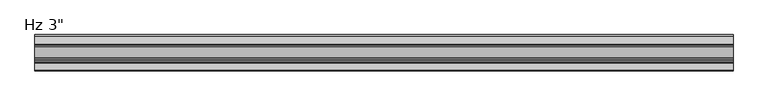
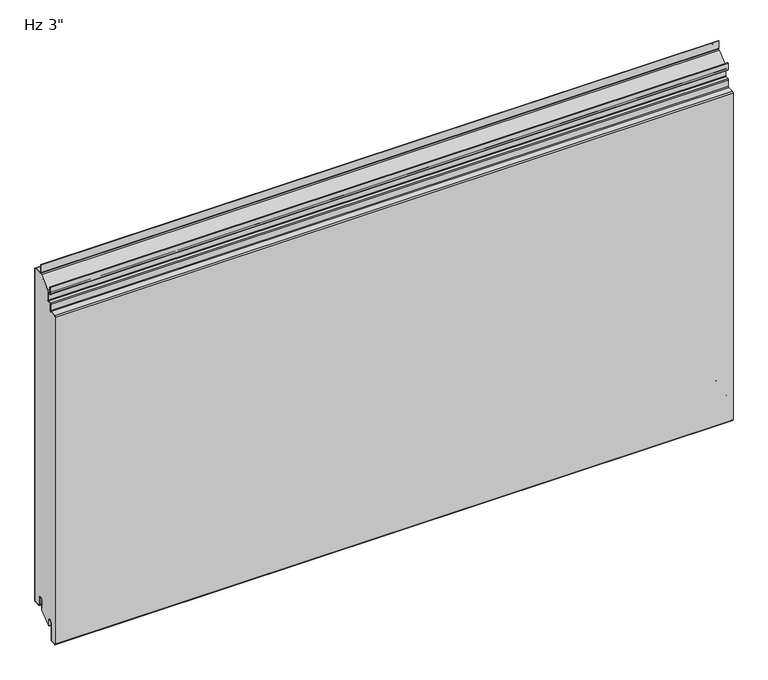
"""IFC4 building model written with IfcOpenShell, lengths in millimetres: plate geometry."""

from ifc_helpers import new_model, si_unit, point, frame, frame_2d, origin, place, context, project, spatial, polyline, circle_curve, ellipse_curve, trimmed, segment, composite_curve, outline, extrude, source, transform, mapped, element, save
from ifc_brep_helpers import plane_surface, cylinder_surface, revolved_surface, extruded_surface, advanced_brep


def plate_24239458(model_context):
    return source(origin(), model_context, "Body", "SolidModel", [
        extrude(outline(composite_curve([segment(trimmed(circle_curve(frame_2d((-21.43125, 19.25)), 4.96875), [point((-16.4625, 19.25))], [point((-26.4, 19.25))], True, "CARTESIAN"), True, "CONTINUOUS"), segment(polyline([(-26.4, 19.25), (-26.4, -2.9323422), (-49.2157227, -22.81875), (-50.8, -22.81875), (-50.8, -13.3080174), (-51.59375, -13.3080174), (-51.3875, -11.7205174)]), True, "CONTINUOUS"), segment(trimmed(circle_curve(frame_2d((-56.35625, -11.7205174)), 4.96875), [point((-51.3875, -11.7205174))], [point((-61.325, -11.7205174))], True, "CARTESIAN"), True, "CONTINUOUS"), segment(polyline([(-61.325, -11.7205174), (-61.325, -49.9038221)]), True, "CONTINUOUS"), segment(trimmed(circle_curve(frame_2d((-62.70625, -49.9038221)), 1.38125), [point((-61.325, -49.9038221))], [point((-62.633961, -51.2831791))], False, "CARTESIAN"), True, "CONTINUOUS"), segment(polyline([(-62.633961, -51.2831791), (-73.746461, -51.8655606)]), True, "CONTINUOUS"), segment(trimmed(circle_curve(frame_2d((-73.81875, -50.4862035)), 1.38125), [point((-73.746461, -51.8655606))], [point((-75.2, -50.4862035))], False, "CARTESIAN"), True, "CONTINUOUS"), segment(polyline([(-75.2, -50.4862035), (-75.2, 694.0447607)]), True, "CONTINUOUS"), segment(trimmed(circle_curve(frame_2d((-73.81875, 694.0447607)), 1.38125), [point((-75.2, 694.0447607))], [point((-73.891039, 695.4241177))], False, "CARTESIAN"), True, "CONTINUOUS"), segment(polyline([(-73.891039, 695.4241177), (-60.1895807, 696.1421807)]), True, "CONTINUOUS"), segment(trimmed(circle_curve(frame_2d((-60.325, 698.7261347)), 2.5875), [point((-60.1895807, 696.1421807))], [point((-57.7375, 698.7261347))], True, "CARTESIAN"), True, "CONTINUOUS"), segment(polyline([(-57.7375, 698.7261347), (-57.7375, 712.8824411)]), True, "CONTINUOUS"), segment(trimmed(circle_curve(frame_2d((-56.35625, 712.8824411)), 1.38125), [point((-57.7375, 712.8824411))], [point((-56.428539, 714.2617981))], False, "CARTESIAN"), True, "CONTINUOUS"), segment(polyline([(-56.428539, 714.2617981), (-50.6645807, 714.5638744)]), True, "CONTINUOUS"), segment(trimmed(circle_curve(frame_2d((-50.8, 717.1478283)), 2.5875), [point((-50.6645807, 714.5638744))], [point((-48.2125, 717.1478283))], True, "CARTESIAN"), True, "CONTINUOUS"), segment(polyline([(-48.2125, 717.1478283), (-48.2125, 739.5892934), (-24.9057308, 760.40625), (-2.38125, 760.40625)]), True, "CONTINUOUS"), segment(trimmed(circle_curve(frame_2d((-2.38125, 759.025)), 1.38125), [point((-2.38125, 760.40625))], [point((-1.0, 759.025))], False, "CARTESIAN"), True, "CONTINUOUS"), segment(polyline([(-1.0, 759.025), (-1.0, 3.375)]), True, "CONTINUOUS"), segment(trimmed(circle_curve(frame_2d((-2.38125, 3.375)), 1.38125), [point((-1.0, 3.375))], [point((-2.38125, 1.99375))], False, "CARTESIAN"), True, "CONTINUOUS"), segment(polyline([(-2.38125, 1.99375), (-15.08125, 1.99375)]), True, "CONTINUOUS"), segment(trimmed(circle_curve(frame_2d((-15.08125, 3.375)), 1.38125), [point((-15.08125, 1.99375))], [point((-16.4625, 3.375))], False, "CARTESIAN"), True, "CONTINUOUS"), segment(polyline([(-16.4625, 3.375), (-16.4625, 19.25)]), True, "CONTINUOUS")], self_intersect=False)), frame((-730.0, 0.0, 0.0), z_axis=(1.0, 0.0, 0.0), x_axis=(0.0, 1.0, 0.0)), (0.0, 0.0, 1.0), 1460.0),
        extrude(outline(composite_curve([segment(polyline([(-25.4, 0.99375), (-26.4, 0.99375), (-26.4, 19.25)]), True, "CONTINUOUS"), segment(trimmed(circle_curve(frame_2d((-21.43125, 19.25)), 4.96875), [point((-26.4, 19.25))], [point((-16.4625, 19.25))], False, "CARTESIAN"), True, "CONTINUOUS"), segment(polyline([(-16.4625, 19.25), (-16.4625, 3.375)]), True, "CONTINUOUS"), segment(trimmed(circle_curve(frame_2d((-15.08125, 3.375)), 1.38125), [point((-16.4625, 3.375))], [point((-15.08125, 1.99375))], True, "CARTESIAN"), True, "CONTINUOUS"), segment(polyline([(-15.08125, 1.99375), (-2.38125, 1.99375)]), True, "CONTINUOUS"), segment(trimmed(circle_curve(frame_2d((-2.38125, 3.375)), 1.38125), [point((-2.38125, 1.99375))], [point((-1.0, 3.375))], True, "CARTESIAN"), True, "CONTINUOUS"), segment(polyline([(-1.0, 3.375), (-1.0, 759.025)]), True, "CONTINUOUS"), segment(trimmed(circle_curve(frame_2d((-2.38125, 759.025)), 1.38125), [point((-1.0, 759.025))], [point((-2.38125, 760.40625))], True, "CARTESIAN"), True, "CONTINUOUS"), segment(polyline([(-2.38125, 760.40625), (-19.446875, 760.40625)]), True, "CONTINUOUS"), segment(trimmed(circle_curve(frame_2d((-19.446875, 762.99375)), 2.5875), [point((-19.446875, 760.40625))], [point((-22.034375, 762.99375))], False, "CARTESIAN"), True, "CONTINUOUS"), segment(polyline([(-22.034375, 762.99375), (-22.034375, 780.45625), (-21.034375, 780.45625), (-21.034375, 762.99375)]), True, "CONTINUOUS"), segment(trimmed(circle_curve(frame_2d((-19.446875, 762.99375)), 1.5875), [point((-21.034375, 762.99375))], [point((-19.446875, 761.40625))], True, "CARTESIAN"), True, "CONTINUOUS"), segment(polyline([(-19.446875, 761.40625), (-2.38125, 761.40625)]), True, "CONTINUOUS"), segment(trimmed(circle_curve(frame_2d((-2.38125, 759.025)), 2.38125), [point((-2.38125, 761.40625))], [point((0.0, 759.025))], False, "CARTESIAN"), True, "CONTINUOUS"), segment(polyline([(0.0, 759.025), (0.0, 3.375)]), True, "CONTINUOUS"), segment(trimmed(circle_curve(frame_2d((-2.38125, 3.375)), 2.38125), [point((0.0, 3.375))], [point((-2.38125, 0.99375))], False, "CARTESIAN"), True, "CONTINUOUS"), segment(polyline([(-2.38125, 0.99375), (-15.08125, 0.99375)]), True, "CONTINUOUS"), segment(trimmed(circle_curve(frame_2d((-15.08125, 3.375)), 2.38125), [point((-15.08125, 0.99375))], [point((-17.4625, 3.375))], False, "CARTESIAN"), True, "CONTINUOUS"), segment(polyline([(-17.4625, 3.375), (-17.4625, 19.25)]), True, "CONTINUOUS"), segment(trimmed(circle_curve(frame_2d((-21.43125, 19.25)), 3.96875), [point((-17.4625, 19.25))], [point((-25.4, 19.25))], True, "CARTESIAN"), True, "CONTINUOUS"), segment(polyline([(-25.4, 19.25), (-25.4, 0.99375)]), True, "CONTINUOUS")], self_intersect=False)), frame((-730.0, 0.0, 0.0), z_axis=(1.0, 0.0, 0.0), x_axis=(0.0, 1.0, 0.0)), (0.0, 0.0, 1.0), 1460.0),
        advanced_brep(
        [(-730.0, -50.8, -23.0314549), (-730.0, -52.3875, -23.0314549), (-730.0, -52.3875, -11.7205174), (-730.0, -60.325, -11.7205174), (-730.0, -60.325, -49.9038221), (-730.0, -62.581625, -52.2818086), (-730.0, -73.694125, -52.8641901), (-730.0, -76.2, -50.4862035), (-730.0, -76.2, 694.0447607), (-730.0, -73.943375, 696.4227473), (-730.0, -60.2419167, 697.1408103), (-730.0, -58.7375, 698.7261347), (-730.0, -58.7375, 712.8824411), (-730.0, -56.480875, 715.2604276), (-730.0, -50.7169167, 715.5625039), (-730.0, -49.2125, 717.1478283), (-730.0, -49.2125, 732.0232326), (-730.0, -50.8, 733.6107326), (-730.0, -54.9671875, 733.6107326), (-730.0, -57.3484375, 735.9919826), (-730.0, -57.3484375, 750.4836032), (-730.0, -55.5546875, 750.4836032), (-730.0, -55.5546875, 740.7544826), (-730.0, -56.3484375, 740.7544826), (-730.0, -56.3484375, 735.9919826), (-730.0, -54.9671875, 734.6107326), (-730.0, -50.8, 734.6107326), (-730.0, -48.2125, 732.0232326), (-730.0, -48.2125, 717.1478283), (-730.0, -50.6645807, 714.5638744), (-730.0, -56.428539, 714.2617981), (-730.0, -57.7375, 712.8824411), (-730.0, -57.7375, 698.7261347), (-730.0, -60.1895807, 696.1421807), (-730.0, -73.891039, 695.4241177), (-730.0, -75.2, 694.0447607), (-730.0, -75.2, -50.4862035), (-730.0, -73.746461, -51.8655606), (-730.0, -62.633961, -51.2831791), (-730.0, -61.325, -49.9038221), (-730.0, -61.325, -11.7205174), (-730.0, -51.3875, -11.7205174), (-730.0, -51.59375, -13.3080174), (-730.0, -50.8, -13.3080174), (730.0, -50.8, -23.0314549), (730.0, -50.8, -13.3080174), (730.0, -51.59375, -13.3080174), (730.0, -51.3875, -11.7205174), (730.0, -61.325, -11.7205174), (730.0, -61.325, -49.9038221), (730.0, -62.633961, -51.2831791), (730.0, -73.746461, -51.8655606), (730.0, -75.2, -50.4862035), (730.0, -75.2, 694.0447607), (730.0, -73.891039, 695.4241177), (730.0, -60.1895807, 696.1421807), (730.0, -57.7375, 698.7261347), (730.0, -57.7375, 712.8824411), (730.0, -56.428539, 714.2617981), (730.0, -50.6645807, 714.5638744), (730.0, -48.2125, 717.1478283), (730.0, -48.2125, 732.0232326), (730.0, -50.8, 734.6107326), (730.0, -54.9671875, 734.6107326), (730.0, -56.3484375, 735.9919826), (730.0, -56.3484375, 740.7544826), (730.0, -55.5546875, 740.7544826), (730.0, -55.5546875, 750.4836032), (730.0, -57.3484375, 750.4836032), (730.0, -57.3484375, 735.9919826), (730.0, -54.9671875, 733.6107326), (730.0, -50.8, 733.6107326), (730.0, -49.2125, 732.0232326), (730.0, -49.2125, 717.1478283), (730.0, -50.7169167, 715.5625039), (730.0, -56.480875, 715.2604276), (730.0, -58.7375, 712.8824411), (730.0, -58.7375, 698.7261347), (730.0, -60.2419167, 697.1408103), (730.0, -73.943375, 696.4227473), (730.0, -76.2, 694.0447607), (730.0, -76.2, -50.4862035), (730.0, -73.694125, -52.8641901), (730.0, -62.581625, -52.2818086), (730.0, -60.325, -49.9038221), (730.0, -60.325, -11.7205174), (730.0, -52.3875, -11.7205174), (730.0, -52.3875, -23.0314549)],
        [
            (0, 1, circle_curve(frame((-730.0, -51.59375, -23.0314549), z_axis=(-1.0, 0.0, 0.0), x_axis=(0.0, 0.0, -1.0)), 0.79375)),
            (1, 2),
            (2, 3, circle_curve(frame((-730.0, -56.35625, -11.7205174), z_axis=(1.0, 0.0, 0.0), x_axis=(0.0, 0.0, -1.0)), 3.96875)),
            (3, 4),
            (4, 5, circle_curve(frame((-730.0, -62.70625, -49.9038221), z_axis=(-1.0, 0.0, 0.0), x_axis=(0.0, 0.0, -1.0)), 2.38125)),
            (5, 6),
            (6, 7, circle_curve(frame((-730.0, -73.81875, -50.4862035), z_axis=(-1.0, 0.0, 0.0), x_axis=(0.0, 0.0, -1.0)), 2.38125)),
            (7, 8),
            (8, 9, circle_curve(frame((-730.0, -73.81875, 694.0447607), z_axis=(-1.0, 0.0, 0.0), x_axis=(0.0, 0.0, -1.0)), 2.38125)),
            (9, 10),
            (10, 11, circle_curve(frame((-730.0, -60.325, 698.7261347), z_axis=(1.0, 0.0, 0.0), x_axis=(0.0, 0.0, -1.0)), 1.5875)),
            (11, 12),
            (12, 13, circle_curve(frame((-730.0, -56.35625, 712.8824411), z_axis=(-1.0, 0.0, 0.0), x_axis=(0.0, 0.0, -1.0)), 2.38125)),
            (13, 14),
            (14, 15, circle_curve(frame((-730.0, -50.8, 717.1478283), z_axis=(1.0, 0.0, 0.0), x_axis=(0.0, 0.0, -1.0)), 1.5875)),
            (15, 16),
            (16, 17, circle_curve(frame((-730.0, -50.8, 732.0232326), z_axis=(1.0, 0.0, 0.0), x_axis=(0.0, 0.0, -1.0)), 1.5875)),
            (17, 18),
            (18, 19, circle_curve(frame((-730.0, -54.9671875, 735.9919826), z_axis=(-1.0, 0.0, 0.0), x_axis=(0.0, 0.0, -1.0)), 2.38125)),
            (19, 20),
            (20, 21, ellipse_curve(frame((-730.0, -56.4515625, 750.4836032), z_axis=(-1.0, 0.0, 0.0), x_axis=(0.0, 1.0, 0.0)), 0.896875, 0.7852275)),
            (21, 22),
            (22, 23),
            (23, 24),
            (24, 25, circle_curve(frame((-730.0, -54.9671875, 735.9919826), z_axis=(1.0, 0.0, 0.0), x_axis=(0.0, 0.0, -1.0)), 1.38125)),
            (25, 26),
            (26, 27, circle_curve(frame((-730.0, -50.8, 732.0232326), z_axis=(-1.0, 0.0, 0.0), x_axis=(0.0, 0.0, -1.0)), 2.5875)),
            (27, 28),
            (28, 29, circle_curve(frame((-730.0, -50.8, 717.1478283), z_axis=(-1.0, 0.0, 0.0), x_axis=(0.0, 0.0, -1.0)), 2.5875)),
            (29, 30),
            (30, 31, circle_curve(frame((-730.0, -56.35625, 712.8824411), z_axis=(1.0, 0.0, 0.0), x_axis=(0.0, 0.0, -1.0)), 1.38125)),
            (31, 32),
            (32, 33, circle_curve(frame((-730.0, -60.325, 698.7261347), z_axis=(-1.0, 0.0, 0.0), x_axis=(0.0, 0.0, -1.0)), 2.5875)),
            (33, 34),
            (34, 35, circle_curve(frame((-730.0, -73.81875, 694.0447607), z_axis=(1.0, 0.0, 0.0), x_axis=(0.0, 0.0, -1.0)), 1.38125)),
            (35, 36),
            (36, 37, circle_curve(frame((-730.0, -73.81875, -50.4862035), z_axis=(1.0, 0.0, 0.0), x_axis=(0.0, 0.0, -1.0)), 1.38125)),
            (37, 38),
            (38, 39, circle_curve(frame((-730.0, -62.70625, -49.9038221), z_axis=(1.0, 0.0, 0.0), x_axis=(0.0, 0.0, -1.0)), 1.38125)),
            (39, 40),
            (40, 41, circle_curve(frame((-730.0, -56.35625, -11.7205174), z_axis=(-1.0, 0.0, 0.0), x_axis=(0.0, 0.0, -1.0)), 4.96875)),
            (41, 42),
            (42, 43),
            (43, 0),
            (44, 45),
            (45, 46),
            (46, 47),
            (47, 48, circle_curve(frame((730.0, -56.35625, -11.7205174), z_axis=(1.0, 0.0, 0.0), x_axis=(0.0, 0.0, -1.0)), 4.96875)),
            (48, 49),
            (49, 50, circle_curve(frame((730.0, -62.70625, -49.9038221), z_axis=(-1.0, 0.0, 0.0), x_axis=(0.0, 0.0, -1.0)), 1.38125)),
            (50, 51),
            (51, 52, circle_curve(frame((730.0, -73.81875, -50.4862035), z_axis=(-1.0, 0.0, 0.0), x_axis=(0.0, 0.0, -1.0)), 1.38125)),
            (52, 53),
            (53, 54, circle_curve(frame((730.0, -73.81875, 694.0447607), z_axis=(-1.0, 0.0, 0.0), x_axis=(0.0, 0.0, -1.0)), 1.38125)),
            (54, 55),
            (55, 56, circle_curve(frame((730.0, -60.325, 698.7261347), z_axis=(1.0, 0.0, 0.0), x_axis=(0.0, 0.0, -1.0)), 2.5875)),
            (56, 57),
            (57, 58, circle_curve(frame((730.0, -56.35625, 712.8824411), z_axis=(-1.0, 0.0, 0.0), x_axis=(0.0, 0.0, -1.0)), 1.38125)),
            (58, 59),
            (59, 60, circle_curve(frame((730.0, -50.8, 717.1478283), z_axis=(1.0, 0.0, 0.0), x_axis=(0.0, 0.0, -1.0)), 2.5875)),
            (60, 61),
            (61, 62, circle_curve(frame((730.0, -50.8, 732.0232326), z_axis=(1.0, 0.0, 0.0), x_axis=(0.0, 0.0, -1.0)), 2.5875)),
            (62, 63),
            (63, 64, circle_curve(frame((730.0, -54.9671875, 735.9919826), z_axis=(-1.0, 0.0, 0.0), x_axis=(0.0, 0.0, -1.0)), 1.38125)),
            (64, 65),
            (65, 66),
            (66, 67),
            (67, 68, ellipse_curve(frame((730.0, -56.4515625, 750.4836032), z_axis=(1.0, 0.0, 0.0), x_axis=(0.0, 1.0, 0.0)), 0.896875, 0.7852275)),
            (68, 69),
            (69, 70, circle_curve(frame((730.0, -54.9671875, 735.9919826), z_axis=(1.0, 0.0, 0.0), x_axis=(0.0, 0.0, -1.0)), 2.38125)),
            (70, 71),
            (71, 72, circle_curve(frame((730.0, -50.8, 732.0232326), z_axis=(-1.0, 0.0, 0.0), x_axis=(0.0, 0.0, -1.0)), 1.5875)),
            (72, 73),
            (73, 74, circle_curve(frame((730.0, -50.8, 717.1478283), z_axis=(-1.0, 0.0, 0.0), x_axis=(0.0, 0.0, -1.0)), 1.5875)),
            (74, 75),
            (75, 76, circle_curve(frame((730.0, -56.35625, 712.8824411), z_axis=(1.0, 0.0, 0.0), x_axis=(0.0, 0.0, -1.0)), 2.38125)),
            (76, 77),
            (77, 78, circle_curve(frame((730.0, -60.325, 698.7261347), z_axis=(-1.0, 0.0, 0.0), x_axis=(0.0, 0.0, -1.0)), 1.5875)),
            (78, 79),
            (79, 80, circle_curve(frame((730.0, -73.81875, 694.0447607), z_axis=(1.0, 0.0, 0.0), x_axis=(0.0, 0.0, -1.0)), 2.38125)),
            (80, 81),
            (81, 82, circle_curve(frame((730.0, -73.81875, -50.4862035), z_axis=(1.0, 0.0, 0.0), x_axis=(0.0, 0.0, -1.0)), 2.38125)),
            (82, 83),
            (83, 84, circle_curve(frame((730.0, -62.70625, -49.9038221), z_axis=(1.0, 0.0, 0.0), x_axis=(0.0, 0.0, -1.0)), 2.38125)),
            (84, 85),
            (85, 86, circle_curve(frame((730.0, -56.35625, -11.7205174), z_axis=(-1.0, 0.0, 0.0), x_axis=(0.0, 0.0, -1.0)), 3.96875)),
            (86, 87),
            (87, 44, circle_curve(frame((730.0, -51.59375, -23.0314549), z_axis=(1.0, 0.0, 0.0), x_axis=(0.0, 0.0, -1.0)), 0.79375)),
            (36, 52),
            (51, 37),
            (50, 38),
            (49, 39),
            (48, 40),
            (47, 41),
            (42, 46),
            (45, 43),
            (22, 66),
            (65, 23),
            (21, 67),
            (20, 68),
            (34, 54),
            (53, 35),
            (32, 56),
            (55, 33),
            (30, 58),
            (57, 31),
            (28, 60),
            (59, 29),
            (24, 64),
            (63, 25),
            (26, 62),
            (61, 27),
            (19, 69),
            (17, 71),
            (70, 18),
            (15, 73),
            (72, 16),
            (13, 75),
            (74, 14),
            (11, 77),
            (76, 12),
            (9, 79),
            (78, 10),
            (7, 81),
            (80, 8),
            (5, 83),
            (82, 6),
            (3, 85),
            (84, 4),
            (1, 87),
            (86, 2),
            (44, 0),
        ],
        [
            plane_surface(frame((-730.0, -76.2, 381.2), z_axis=(-1.0, 0.0, 0.0), x_axis=(0.0, -1.0, 0.0))),
            plane_surface(frame((730.0, -76.2, 381.2), z_axis=(1.0, 0.0, 0.0), x_axis=(0.0, -1.0, 0.0))),
            revolved_surface(polyline([(730.0, -73.81875, -51.8674535), (-730.0, -73.81875, -51.8674535)]), (-730.0, -73.81875, -50.4862035), (1.0, 0.0, 0.0)),
            plane_surface(frame((-730.0, -62.633961, -51.2831791), z_axis=(0.0, -0.05233595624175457, 0.9986295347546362), x_axis=(1.0, 0.0, 0.0))),
            revolved_surface(polyline([(730.0, -62.70625, -51.2850721), (-730.0, -62.70625, -51.2850721)]), (-730.0, -62.70625, -49.9038221), (1.0, 0.0, 0.0)),
            plane_surface(frame((-730.0, -61.325, -11.7205174), z_axis=(0.0, -1.0, 0.0), x_axis=(1.0, 0.0, 0.0))),
            cylinder_surface(frame((-730.0, -56.35625, -11.7205174), z_axis=(-1.0, 0.0, 0.0), x_axis=(0.0, 0.0, -1.0)), 4.96875),
            plane_surface(frame((-730.0, -50.8, -13.3080174), z_axis=(0.0, 0.0, 1.0), x_axis=(1.0, 0.0, 0.0))),
            plane_surface(frame((-730.0, -51.59375, -13.3080174), z_axis=(0.0, 0.9916655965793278, -0.12883844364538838), x_axis=(1.0, 0.0, 0.0))),
            plane_surface(frame((-730.0, -56.3484375, 740.7544826), z_axis=(0.0, 0.0, -1.0), x_axis=(1.0, 0.0, 0.0))),
            plane_surface(frame((-730.0, -55.5546875, 740.7544826), z_axis=(0.0, 1.0, 0.0), x_axis=(1.0, 0.0, 0.0))),
            extruded_surface(trimmed(ellipse_curve(frame((-730.0, -56.4515625, 750.4836032), z_axis=(1.0, 0.0, 0.0), x_axis=(0.0, 1.0, 0.0)), 0.896875, 0.7852275), [point((-730.0, -55.5546875, 750.4836032))], [point((-730.0, -57.3484375, 750.4836032))], True, "CARTESIAN"), (1460.0, 0.0, 0.0), 1460.0),
            revolved_surface(polyline([(730.0, -73.81875, 692.6635107), (-730.0, -73.81875, 692.6635107)]), (-730.0, -73.81875, 694.0447607), (1.0, 0.0, 0.0)),
            cylinder_surface(frame((-730.0, -60.325, 698.7261347), z_axis=(-1.0, 0.0, 0.0), x_axis=(0.0, 0.0, -1.0)), 2.5875),
            plane_surface(frame((-730.0, -73.891039, 695.4241177), z_axis=(0.0, 0.05233595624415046, -0.9986295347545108), x_axis=(1.0, 0.0, 0.0))),
            plane_surface(frame((-730.0, -75.2, -50.4862035), z_axis=(0.0, 1.0, 0.0), x_axis=(1.0, 0.0, 0.0))),
            revolved_surface(polyline([(730.0, -56.35625, 711.5011911), (-730.0, -56.35625, 711.5011911)]), (-730.0, -56.35625, 712.8824411), (1.0, 0.0, 0.0)),
            cylinder_surface(frame((-730.0, -50.8, 717.1478283), z_axis=(-1.0, 0.0, 0.0), x_axis=(0.0, 0.0, -1.0)), 2.5875),
            plane_surface(frame((-730.0, -56.428539, 714.2617981), z_axis=(0.0, 0.052335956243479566, -0.9986295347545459), x_axis=(1.0, 0.0, 0.0))),
            plane_surface(frame((-730.0, -57.7375, 698.7261347), z_axis=(0.0, 1.0, 0.0), x_axis=(1.0, 0.0, 0.0))),
            revolved_surface(polyline([(730.0, -54.9671875, 734.6107326), (-730.0, -54.9671875, 734.6107326)]), (-730.0, -54.9671875, 735.9919826), (1.0, 0.0, 0.0)),
            cylinder_surface(frame((-730.0, -50.8, 732.0232326), z_axis=(-1.0, 0.0, 0.0), x_axis=(0.0, 0.0, -1.0)), 2.5875),
            plane_surface(frame((-730.0, -50.8, 734.6107326), z_axis=(0.0, 0.0, 1.0), x_axis=(1.0, 0.0, 0.0))),
            plane_surface(frame((-730.0, -56.3484375, 735.9919826), z_axis=(0.0, 1.0, 0.0), x_axis=(1.0, 0.0, 0.0))),
            plane_surface(frame((-730.0, -57.3484375, 750.4836032), z_axis=(0.0, -1.0, 0.0), x_axis=(1.0, 0.0, 0.0))),
            plane_surface(frame((-730.0, -54.9671875, 733.6107326), z_axis=(0.0, 0.0, -1.0), x_axis=(1.0, 0.0, 0.0))),
            cylinder_surface(frame((-730.0, -54.9671875, 735.9919826), z_axis=(-1.0, 0.0, 0.0), x_axis=(0.0, 0.0, -1.0)), 2.38125),
            plane_surface(frame((-730.0, -48.2125, 717.1478283), z_axis=(0.0, 1.0, 0.0), x_axis=(1.0, 0.0, 0.0))),
            plane_surface(frame((-730.0, -49.2125, 732.0232326), z_axis=(0.0, -1.0, 0.0), x_axis=(1.0, 0.0, 0.0))),
            plane_surface(frame((-730.0, -50.7169167, 715.5625039), z_axis=(0.0, -0.05233595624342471, 0.9986295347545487), x_axis=(1.0, 0.0, 0.0))),
            revolved_surface(polyline([(730.0, -50.8, 715.5603283), (-730.0, -50.8, 715.5603283)]), (-730.0, -50.8, 717.1478283), (1.0, 0.0, 0.0)),
            revolved_surface(polyline([(730.0, -50.8, 730.4357326), (-730.0, -50.8, 730.4357326)]), (-730.0, -50.8, 732.0232326), (1.0, 0.0, 0.0)),
            plane_surface(frame((-730.0, -58.7375, 712.8824411), z_axis=(0.0, -1.0, 0.0), x_axis=(1.0, 0.0, 0.0))),
            plane_surface(frame((-730.0, -60.2419167, 697.1408103), z_axis=(0.0, -0.0523359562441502, 0.9986295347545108), x_axis=(1.0, 0.0, 0.0))),
            revolved_surface(polyline([(730.0, -60.325, 697.1386347), (-730.0, -60.325, 697.1386347)]), (-730.0, -60.325, 698.7261347), (1.0, 0.0, 0.0)),
            cylinder_surface(frame((-730.0, -56.35625, 712.8824411), z_axis=(-1.0, 0.0, 0.0), x_axis=(0.0, 0.0, -1.0)), 2.38125),
            plane_surface(frame((-730.0, -76.2, 694.0447607), z_axis=(0.0, -1.0, 0.0), x_axis=(1.0, 0.0, 0.0))),
            plane_surface(frame((-730.0, -73.694125, -52.8641901), z_axis=(0.0, 0.05233595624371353, -0.9986295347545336), x_axis=(1.0, 0.0, 0.0))),
            cylinder_surface(frame((-730.0, -73.81875, -50.4862035), z_axis=(-1.0, 0.0, 0.0), x_axis=(0.0, 0.0, -1.0)), 2.38125),
            cylinder_surface(frame((-730.0, -73.81875, 694.0447607), z_axis=(-1.0, 0.0, 0.0), x_axis=(0.0, 0.0, -1.0)), 2.38125),
            plane_surface(frame((-730.0, -60.325, -49.9038221), z_axis=(0.0, 1.0, 0.0), x_axis=(1.0, 0.0, 0.0))),
            plane_surface(frame((-730.0, -52.3875, -11.7205174), z_axis=(0.0, -1.0, 0.0), x_axis=(1.0, 0.0, 0.0))),
            revolved_surface(polyline([(730.0, -56.35625, -15.6892674), (-730.0, -56.35625, -15.6892674)]), (-730.0, -56.35625, -11.7205174), (1.0, 0.0, 0.0)),
            cylinder_surface(frame((-730.0, -62.70625, -49.9038221), z_axis=(-1.0, 0.0, 0.0), x_axis=(0.0, 0.0, -1.0)), 2.38125),
            plane_surface(frame((-730.0, -50.8, -23.0314549), z_axis=(0.0, 1.0, 0.0), x_axis=(1.0, 0.0, 0.0))),
            cylinder_surface(frame((-730.0, -51.59375, -23.0314549), z_axis=(-1.0, 0.0, 0.0), x_axis=(0.0, 0.0, -1.0)), 0.79375),
        ],
        [
            (0, [[1, 2, 3, 4, 5, 6, 7, 8, 9, 10, 11, 12, 13, 14, 15, 16, 17, 18, 19, 20, 21, 22, 23, 24, 25, 26, 27, 28, 29, 30, 31, 32, 33, 34, 35, 36, 37, 38, 39, 40, 41, 42, 43, 44]]),
            (1, [[45, 46, 47, 48, 49, 50, 51, 52, 53, 54, 55, 56, 57, 58, 59, 60, 61, 62, 63, 64, 65, 66, 67, 68, 69, 70, 71, 72, 73, 74, 75, 76, 77, 78, 79, 80, 81, 82, 83, 84, 85, 86, 87, 88]]),
            (2, [[89, -52, 90, -37]]),
            (3, [[-90, -51, 91, -38]]),
            (4, [[-91, -50, 92, -39]]),
            (5, [[-92, -49, 93, -40]]),
            (6, [[-93, -48, 94, -41]]),
            (7, [[95, -46, 96, -43]]),
            (8, [[-94, -47, -95, -42]]),
            (9, [[97, -66, 98, -23]]),
            (10, [[99, -67, -97, -22]]),
            (11, [[100, -68, -99, -21]]),
            (12, [[101, -54, 102, -35]]),
            (13, [[103, -56, 104, -33]]),
            (14, [[-104, -55, -101, -34]]),
            (15, [[-102, -53, -89, -36]]),
            (16, [[105, -58, 106, -31]]),
            (17, [[107, -60, 108, -29]]),
            (18, [[-108, -59, -105, -30]]),
            (19, [[-106, -57, -103, -32]]),
            (20, [[109, -64, 110, -25]]),
            (21, [[111, -62, 112, -27]]),
            (22, [[-110, -63, -111, -26]]),
            (23, [[-98, -65, -109, -24]]),
            (24, [[113, -69, -100, -20]]),
            (25, [[114, -71, 115, -18]]),
            (26, [[-115, -70, -113, -19]]),
            (27, [[-112, -61, -107, -28]]),
            (28, [[116, -73, 117, -16]]),
            (29, [[118, -75, 119, -14]]),
            (30, [[-119, -74, -116, -15]]),
            (31, [[-117, -72, -114, -17]]),
            (32, [[120, -77, 121, -12]]),
            (33, [[122, -79, 123, -10]]),
            (34, [[-123, -78, -120, -11]]),
            (35, [[-121, -76, -118, -13]]),
            (36, [[124, -81, 125, -8]]),
            (37, [[126, -83, 127, -6]]),
            (38, [[-127, -82, -124, -7]]),
            (39, [[-125, -80, -122, -9]]),
            (40, [[128, -85, 129, -4]]),
            (41, [[130, -87, 131, -2]]),
            (42, [[-131, -86, -128, -3]]),
            (43, [[-129, -84, -126, -5]]),
            (44, [[-96, -45, 132, -44]]),
            (45, [[-132, -88, -130, -1]]),
        ],
    ),
    ])


if __name__ == "__main__":
    model = new_model("IFC4")
    model_context = context("Model", 3, world=origin())
    ifc_project = project(units=[si_unit("LENGTHUNIT", "METRE", prefix="MILLI")], contexts=[model_context])
    site = spatial("IfcSite", under=ifc_project)
    building = spatial("IfcBuilding", under=site)
    placement = place(None, origin())
    plate_shape = plate_24239458(model_context)
    element("IfcPlate", 1, ObjectType="KIP-30-DWHR-R19-CP-Hz-F : Hz 3\"", at=placement, inside=building, context=model_context, shape_type="MappedRepresentation", body=[
        mapped(plate_shape, transform((0.0, 0.0, 0.0), x_axis=(1.0, 0.0, 0.0), y_axis=(0.0, 1.0, 0.0), z_axis=(0.0, 0.0, 1.0))),
    ])
    save(model, "model.ifc")
